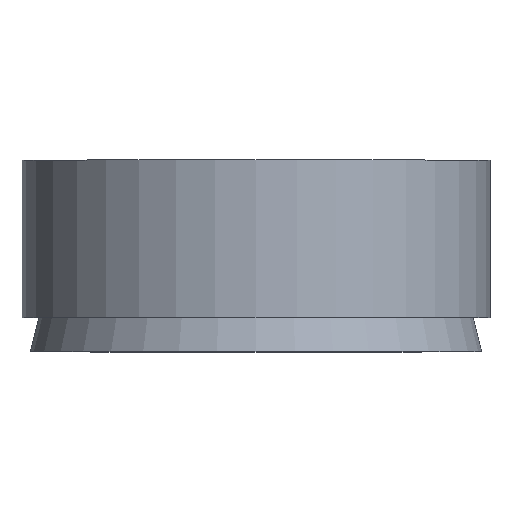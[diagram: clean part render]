
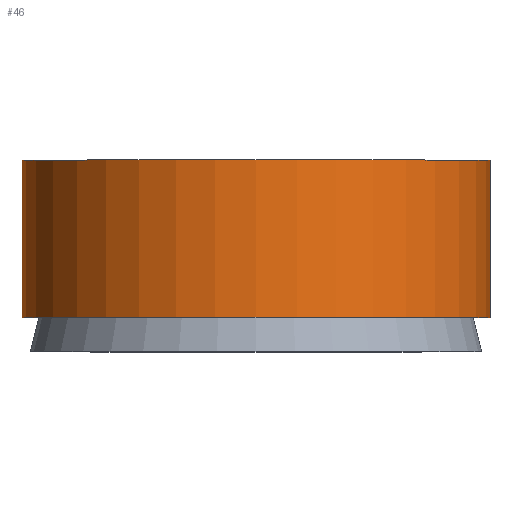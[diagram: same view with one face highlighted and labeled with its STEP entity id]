
A CAD part, top view. The second image highlights one B-rep face of the part: STEP entity #46.
In plain terms, the highlighted cylindrical face has radius 5.5 mm (diameter 11 mm), a full revolution.
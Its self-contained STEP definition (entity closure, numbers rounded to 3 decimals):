
#46 = ADVANCED_FACE( '', ( #93, #94 ), #95, .T. );
#93 = FACE_OUTER_BOUND( '', #132, .T. );
#94 = FACE_OUTER_BOUND( '', #133, .T. );
#95 = CYLINDRICAL_SURFACE( '', #134, 5.5 );
#132 = EDGE_LOOP( '', ( #179 ) );
#133 = EDGE_LOOP( '', ( #180 ) );
#134 = AXIS2_PLACEMENT_3D( '', #181, #182, #183 );
#179 = ORIENTED_EDGE( '', *, *, #189, .F. );
#180 = ORIENTED_EDGE( '', *, *, #198, .T. );
#181 = CARTESIAN_POINT( '', ( 0., -60., 0. ) );
#182 = DIRECTION( '', ( 0., 1., 0. ) );
#183 = DIRECTION( '', ( 0., 0., -1. ) );
#189 = EDGE_CURVE( '', #208, #208, #209, .T. );
#198 = EDGE_CURVE( '', #221, #221, #222, .T. );
#208 = VERTEX_POINT( '', #232 );
#209 = CIRCLE( '', #233, 5.5 );
#221 = VERTEX_POINT( '', #245 );
#222 = CIRCLE( '', #246, 5.5 );
#232 = CARTESIAN_POINT( '', ( 0., 0.8, -5.5 ) );
#233 = AXIS2_PLACEMENT_3D( '', #257, #258, #259 );
#245 = CARTESIAN_POINT( '', ( 0., 4.5, -5.5 ) );
#246 = AXIS2_PLACEMENT_3D( '', #269, #270, #271 );
#257 = CARTESIAN_POINT( '', ( 0., 0.8, 0. ) );
#258 = DIRECTION( '', ( 0., -1., 0. ) );
#259 = DIRECTION( '', ( 0., 0., -1. ) );
#269 = CARTESIAN_POINT( '', ( 0., 4.5, 0. ) );
#270 = DIRECTION( '', ( 0., -1., 0. ) );
#271 = DIRECTION( '', ( 0., 0., -1. ) );
